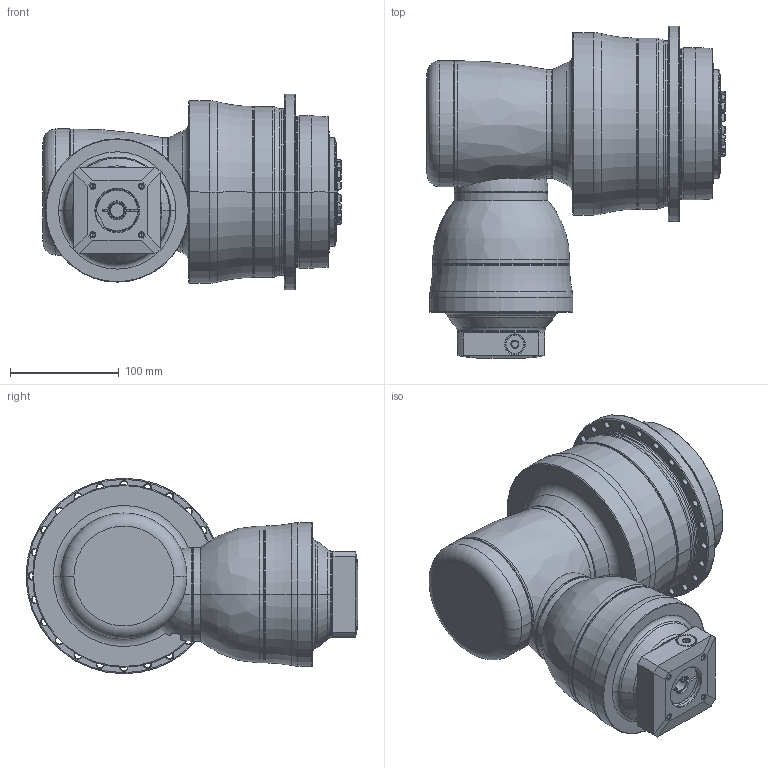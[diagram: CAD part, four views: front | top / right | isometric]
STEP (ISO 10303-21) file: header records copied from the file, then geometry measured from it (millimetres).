
FILE_DESCRIPTION((''),'2;1');
FILE_NAME('APCK140_4ST_14-P0409320201_ASM','2018-05-15T',('d01226'),(''),'PRO/ENGINEER BY PARAMETRIC TECHNOLOGY CORPORATION, 2008410','PRO/ENGINEER BY PARAMETRIC TECHNOLOGY CORPORATION, 2008410','');
FILE_SCHEMA(('CONFIG_CONTROL_DESIGN'));
Length unit declared in the file: millimetre
Products named in the file (13): P1008400002; P1832500001; P0278501003; P03595D0103; P1211500001; P1315400001; P1007401001; P1317410001; P0409320201; P0503300006; P0912351001; 21711412017; APCK140_4ST_14-P0409320201_ASM
Assembly tree (12 placements, depth 2):
  APCK140_4ST_14-P0409320201_ASM
    P1008400002
    P1832500001
    P0278501003
    P03595D0103
    P1211500001
    P1315400001
    P1007401001
    P1317410001
    P0409320201
    P0503300006
    P0912351001
    21711412017
Bounding box: 274.4 x 305.5 x 180 mm (x, y, z)
Volume: 5157325.5 mm3; surface area: 507422.8 mm2
Topology: 13 solids, 23 shells, 732 faces, 1718 edges, 1041 vertices
Faces by surface type: cone 222, cylinder 221, plane 130, torus 119, bspline 38, sphere 2
Entity records: 27443 total; most frequent: CARTESIAN_POINT 10226, DIRECTION 3843, ORIENTED_EDGE 3366, EDGE_CURVE 1704, AXIS2_PLACEMENT_3D 1684, VERTEX_POINT 1041, CIRCLE 955, EDGE_LOOP 839
